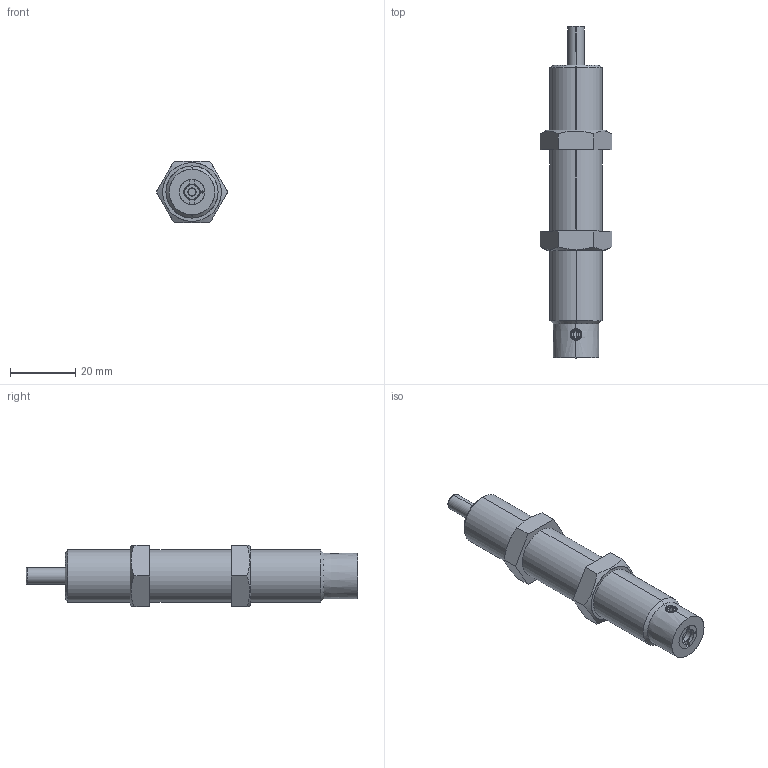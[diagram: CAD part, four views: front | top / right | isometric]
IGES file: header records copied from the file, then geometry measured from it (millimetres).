
Start section: SolidWorks IGES file using analytic representation for surfaces
Bounding box: 21.94 x 102 x 19 mm (x, y, z)
Surface area: 7026.6 mm2 (no closed solid volume)
Topology: 0 solids, 0 shells, 80 faces, 1324 edges, 1324 vertices
Faces by surface type: bspline 44, revolution 36
